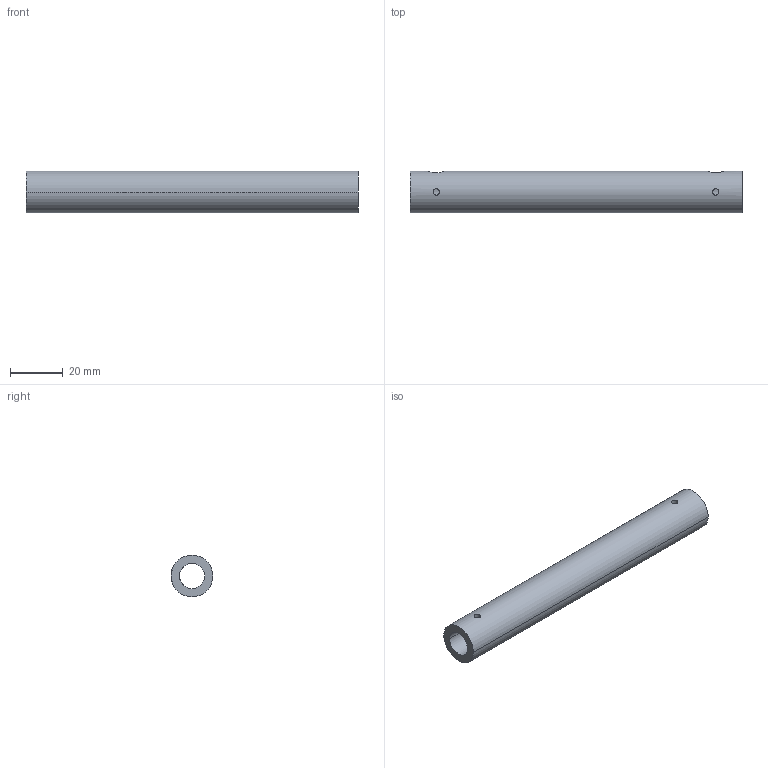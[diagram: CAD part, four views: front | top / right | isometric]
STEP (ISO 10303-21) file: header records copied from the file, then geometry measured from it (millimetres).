
FILE_DESCRIPTION(('CATIA V5 STEP Exchange','CAx-IF Rec.Pracs.--- Model Styling and Organization---1.4--- 2014-01-23','CAx-IF Rec.Pracs.---3D Tessellated Data Validation Properties---0.5---2014-09-14'),'2;1');
FILE_NAME('D:\GrabCAD\I+D\SERIE_LEXA\EKOT-1360-170921A-LEXA_WAIST_SUPPORT\FAB\FAB_C\PDF\MAQUINADO\1360.000.008.002.BUJE_TALLA.stp','2024-11-01T00:00:13+00:00',('none'),('none'),'CATIA Version 5-6 Release 2018 SP6','CATIA V5 STEP AP242','none');
FILE_SCHEMA(('AP242_MANAGED_MODEL_BASED_3D_ENGINEERING_MIM_LF {1 0 10303 442 1 1 4}'));
Length unit declared in the file: millimetre
Products named in the file (1): 1360.000.008.003.BUJE_TALLA
Bounding box: 126 x 15.88 x 15.88 mm (x, y, z)
Volume: 15701.4 mm3; surface area: 10337 mm2
Topology: 1 solids, 1 shells, 14 faces, 44 edges, 28 vertices
Faces by surface type: cylinder 12, plane 2
Entity records: 689 total; most frequent: CARTESIAN_POINT 299, ORIENTED_EDGE 88, EDGE_CURVE 44, DIRECTION 40, VERTEX_POINT 28, EDGE_LOOP 20, B_SPLINE_CURVE_WITH_KNOTS 20, AXIS2_PLACEMENT_3D 17
